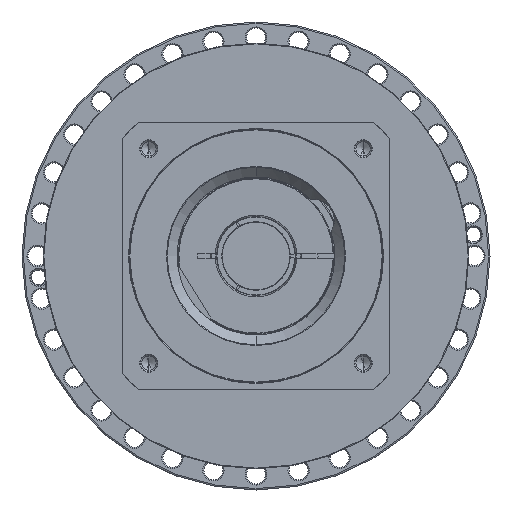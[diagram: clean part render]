
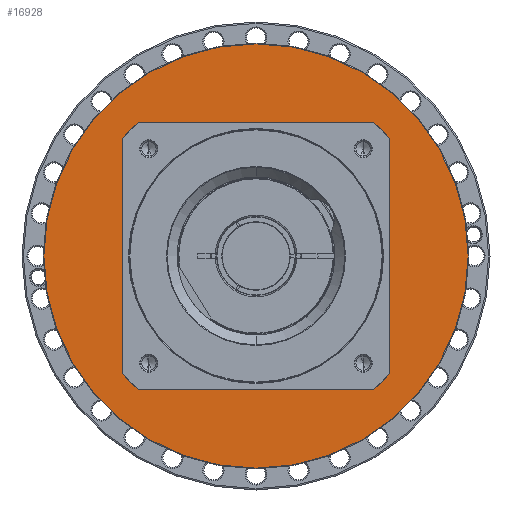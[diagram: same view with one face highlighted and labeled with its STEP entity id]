
A CAD part, left-side view. The second image highlights one B-rep face of the part: STEP entity #16928.
In plain terms, the highlighted planar face has unit normal (-1, 0, 0) as drawn and (1, 0, 0) by its records, which use the part's own axes.
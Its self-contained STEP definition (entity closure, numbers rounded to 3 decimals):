
#16455=CARTESIAN_POINT('',(-5.,0.,
0.));
#16456=DIRECTION('',(-1.,0.,0.));
#16457=DIRECTION('',(0.,1.,0.));
#16458=AXIS2_PLACEMENT_3D('',#16455,#16456,#16457);
#16460=CARTESIAN_POINT('',(-5.,0.,
0.));
#16461=DIRECTION('',(-1.,0.,0.));
#16462=DIRECTION('',(0.,-1.,0.));
#16463=AXIS2_PLACEMENT_3D('',#16460,#16461,#16462);
#16465=CARTESIAN_POINT('',(-5.,0.,0.));
#16466=DIRECTION('',(-1.,0.,0.));
#16467=DIRECTION('',(0.,-1.,0.));
#16468=AXIS2_PLACEMENT_3D('',#16465,#16466,#16467);
#16470=CARTESIAN_POINT('',(-5.,0.,0.));
#16471=DIRECTION('',(-1.,0.,0.));
#16472=DIRECTION('',(0.,1.,0.));
#16473=AXIS2_PLACEMENT_3D('',#16470,#16471,#16472);
#16499=CARTESIAN_POINT('',(-5.,-150.5,0.));
#16500=CARTESIAN_POINT('',(-5.,150.5,0.));
#16501=VERTEX_POINT('',#16499);
#16502=VERTEX_POINT('',#16500);
#16547=CARTESIAN_POINT('',(-5.,95.,
0.));
#16548=CARTESIAN_POINT('',(-5.,-95.,0.));
#16549=VERTEX_POINT('',#16547);
#16550=VERTEX_POINT('',#16548);
#16913=CARTESIAN_POINT('',(-5.,0.,0.));
#16914=DIRECTION('',(1.,0.,0.));
#16915=DIRECTION('',(0.,-1.,0.));
#16916=AXIS2_PLACEMENT_3D('',#16913,#16914,#16915);
#16917=PLANE('',#16916);
#16918=ORIENTED_EDGE('',*,*,#16854,.T.);
#16919=ORIENTED_EDGE('',*,*,#16869,.T.);
#16920=EDGE_LOOP('',(#16918,#16919));
#16921=FACE_OUTER_BOUND('',#16920,.F.);
#16923=ORIENTED_EDGE('',*,*,#16922,.F.);
#16925=ORIENTED_EDGE('',*,*,#16924,.F.);
#16926=EDGE_LOOP('',(#16923,#16925));
#16927=FACE_BOUND('',#16926,.F.);
#16928=ADVANCED_FACE('',(#16921,#16927),#16917,.T.);
#16459=CIRCLE('',#16458,95.);
#16464=CIRCLE('',#16463,95.);
#16469=CIRCLE('',#16468,150.5);
#16474=CIRCLE('',#16473,150.5);
#16854=EDGE_CURVE('',#16501,#16502,#16469,.T.);
#16869=EDGE_CURVE('',#16502,#16501,#16474,.T.);
#16922=EDGE_CURVE('',#16549,#16550,#16459,.T.);
#16924=EDGE_CURVE('',#16550,#16549,#16464,.T.);
